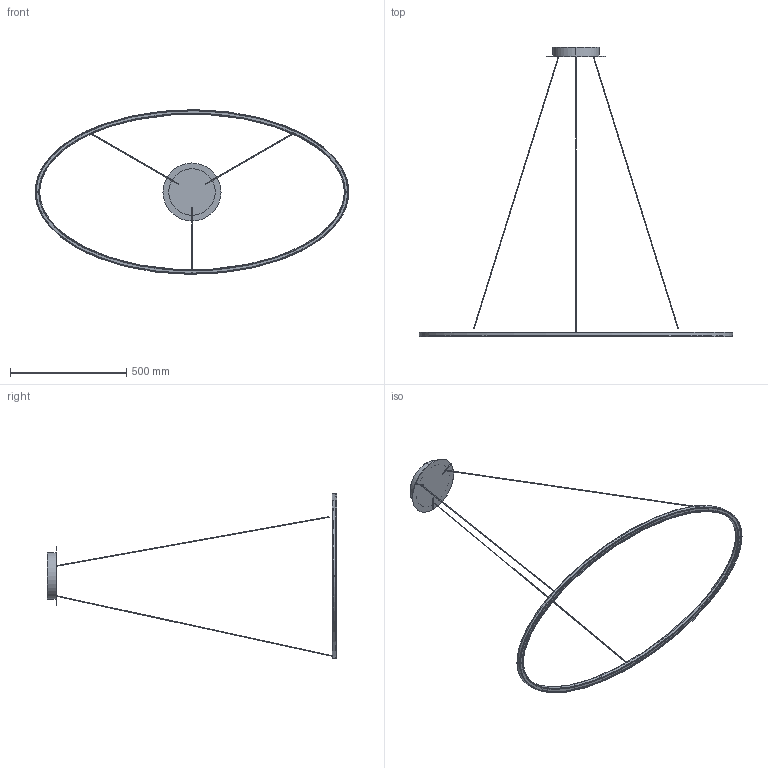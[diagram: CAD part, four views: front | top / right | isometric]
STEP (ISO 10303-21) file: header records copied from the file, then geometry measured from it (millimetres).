
FILE_DESCRIPTION (( 'STEP AP214' ), '1' );
FILE_NAME ('3D_ELLISSE_PENDANT_MAJOR.STEP', '2018-02-23T10:42:35', ( 'Utente' ), ( '' ), 'SwSTEP 2.0', 'SolidWorks 2016', '' );
FILE_SCHEMA (( 'AUTOMOTIVE_DESIGN' ));
Length unit declared in the file: millimetre
Products named in the file (6): 010COM701230_ROSONE D200 ROVESCIAT 3-6+ F. LAT-1^3D_ELLISSE_PENDANT_MAJOR; Group3^3D_ELLISSE_PENDANT_MAJOR; Group2^3D_ELLISSE_PENDANT_MAJOR; Group1^3D_ELLISSE_PENDANT_MAJOR; 3D_ELLISSE_PENDANT_MAJOR; 010COM701410_PIAT ROS D250 3T+1F+4P AL GR-1^3D_ELLISSE_PENDANT_MAJOR
Assembly tree (5 placements, depth 2):
  3D_ELLISSE_PENDANT_MAJOR
    Group1^3D_ELLISSE_PENDANT_MAJOR
    Group2^3D_ELLISSE_PENDANT_MAJOR
    Group3^3D_ELLISSE_PENDANT_MAJOR
    010COM701230_ROSONE D200 ROVESCIAT 3-6+ F. LAT-1^3D_ELLISSE_PENDANT_MAJOR
    010COM701410_PIAT ROS D250 3T+1F+4P AL GR-1^3D_ELLISSE_PENDANT_MAJOR
Bounding box: 1350 x 1246.91 x 708.89 mm (x, y, z)
Volume: 1810084.1 mm3; surface area: 750132.1 mm2
Topology: 9 solids, 9 shells, 407 faces, 1165 edges, 776 vertices
Faces by surface type: cylinder 253, plane 116, bspline 36, torus 2
Entity records: 21123 total; most frequent: CARTESIAN_POINT 9916, DIRECTION 2373, ORIENTED_EDGE 2330, EDGE_CURVE 1165, AXIS2_PLACEMENT_3D 889, VERTEX_POINT 776, VECTOR 595, LINE 595
